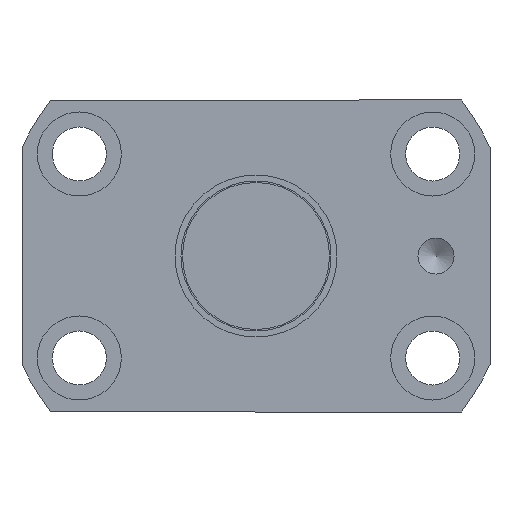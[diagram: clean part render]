
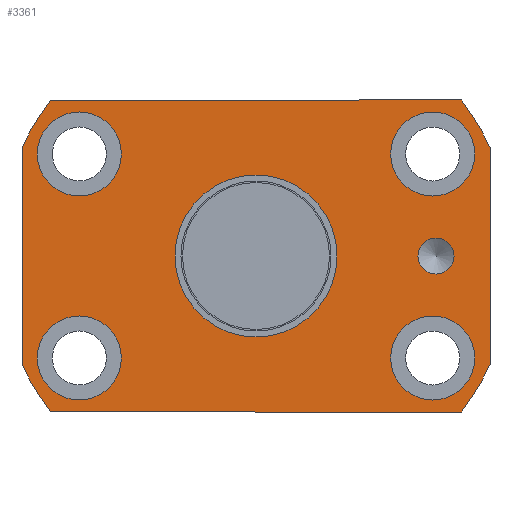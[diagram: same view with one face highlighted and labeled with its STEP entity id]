
A CAD part, left-side view. The second image highlights one B-rep face of the part: STEP entity #3361.
In plain terms, the highlighted planar face has unit normal (-1, 0, 0).
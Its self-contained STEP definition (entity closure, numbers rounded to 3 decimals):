
#375=CARTESIAN_POINT('',(457.265,-27.,0.));
#376=VERTEX_POINT('',#375);
#377=CARTESIAN_POINT('',(457.265,-30.0,0.));
#378=DIRECTION('',(1.0,0.0,0.0));
#379=DIRECTION('',(0.0,1.0,0.0));
#380=AXIS2_PLACEMENT_3D('',#377,#378,#379);
#381=CIRCLE('',#380,3.);
#382=EDGE_CURVE('',#376,#376,#381,.T.);
#516=CARTESIAN_POINT('',(457.265,36.445,-17.));
#517=VERTEX_POINT('',#516);
#518=CARTESIAN_POINT('',(457.265,29.445,-17.));
#519=DIRECTION('',(1.0,0.0,0.0));
#520=DIRECTION('',(0.0,1.0,0.0));
#521=AXIS2_PLACEMENT_3D('',#518,#519,#520);
#522=CIRCLE('',#521,7.);
#523=EDGE_CURVE('',#517,#517,#522,.T.);
#584=CARTESIAN_POINT('',(457.265,-22.445,17.));
#585=VERTEX_POINT('',#584);
#586=CARTESIAN_POINT('',(457.265,-29.445,17.));
#587=DIRECTION('',(1.0,0.0,0.0));
#588=DIRECTION('',(0.0,1.0,0.0));
#589=AXIS2_PLACEMENT_3D('',#586,#587,#588);
#590=CIRCLE('',#589,7.);
#591=EDGE_CURVE('',#585,#585,#590,.T.);
#652=CARTESIAN_POINT('',(457.265,36.445,17.));
#653=VERTEX_POINT('',#652);
#654=CARTESIAN_POINT('',(457.265,29.445,17.));
#655=DIRECTION('',(1.0,0.0,0.0));
#656=DIRECTION('',(0.0,1.0,0.0));
#657=AXIS2_PLACEMENT_3D('',#654,#655,#656);
#658=CIRCLE('',#657,7.);
#659=EDGE_CURVE('',#653,#653,#658,.T.);
#720=CARTESIAN_POINT('',(457.265,-22.445,-17.));
#721=VERTEX_POINT('',#720);
#722=CARTESIAN_POINT('',(457.265,-29.445,-17.));
#723=DIRECTION('',(1.0,0.0,0.0));
#724=DIRECTION('',(0.0,1.0,0.0));
#725=AXIS2_PLACEMENT_3D('',#722,#723,#724);
#726=CIRCLE('',#725,7.);
#727=EDGE_CURVE('',#721,#721,#726,.T.);
#3060=CARTESIAN_POINT('',(457.265,-34.249,26.));
#3061=VERTEX_POINT('',#3060);
#3068=CARTESIAN_POINT('',(457.265,-39.0,18.111));
#3069=VERTEX_POINT('',#3068);
#3070=CARTESIAN_POINT('',(457.265,0.,0.0));
#3071=DIRECTION('',(1.0,0.0,0.0));
#3072=DIRECTION('',(0.0,1.0,0.0));
#3073=AXIS2_PLACEMENT_3D('',#3070,#3071,#3072);
#3074=CIRCLE('',#3073,43.0);
#3075=EDGE_CURVE('',#3061,#3069,#3074,.T.);
#3092=CARTESIAN_POINT('',(457.265,34.249,26.0));
#3093=VERTEX_POINT('',#3092);
#3100=CARTESIAN_POINT('',(457.265,34.249,26.0));
#3101=DIRECTION('',(0.0,-1.0,0.0));
#3102=VECTOR('',#3101,68.498);
#3103=LINE('',#3100,#3102);
#3104=EDGE_CURVE('',#3093,#3061,#3103,.T.);
#3116=CARTESIAN_POINT('',(457.265,39.0,18.111));
#3117=VERTEX_POINT('',#3116);
#3124=CARTESIAN_POINT('',(457.265,0.,0.0));
#3125=DIRECTION('',(1.0,0.0,0.0));
#3126=DIRECTION('',(0.0,1.0,0.0));
#3127=AXIS2_PLACEMENT_3D('',#3124,#3125,#3126);
#3128=CIRCLE('',#3127,43.0);
#3129=EDGE_CURVE('',#3117,#3093,#3128,.T.);
#3141=CARTESIAN_POINT('',(457.265,39.,-18.111));
#3142=VERTEX_POINT('',#3141);
#3149=CARTESIAN_POINT('',(457.265,39.,-18.111));
#3150=DIRECTION('',(0.0,0.0,1.0));
#3151=VECTOR('',#3150,36.222);
#3152=LINE('',#3149,#3151);
#3153=EDGE_CURVE('',#3142,#3117,#3152,.T.);
#3165=CARTESIAN_POINT('',(457.265,-34.249,-26.));
#3166=VERTEX_POINT('',#3165);
#3173=CARTESIAN_POINT('',(457.265,34.249,-26.0));
#3174=VERTEX_POINT('',#3173);
#3175=CARTESIAN_POINT('',(457.265,-34.249,-26.));
#3176=DIRECTION('',(0.0,1.0,0.0));
#3177=VECTOR('',#3176,68.498);
#3178=LINE('',#3175,#3177);
#3179=EDGE_CURVE('',#3166,#3174,#3178,.T.);
#3197=CARTESIAN_POINT('',(457.265,0.,0.0));
#3198=DIRECTION('',(1.0,0.0,0.0));
#3199=DIRECTION('',(0.0,1.0,0.0));
#3200=AXIS2_PLACEMENT_3D('',#3197,#3198,#3199);
#3201=CIRCLE('',#3200,43.0);
#3202=EDGE_CURVE('',#3174,#3142,#3201,.T.);
#3214=CARTESIAN_POINT('',(457.265,-39.0,-18.111));
#3215=VERTEX_POINT('',#3214);
#3222=CARTESIAN_POINT('',(457.265,0.,0.0));
#3223=DIRECTION('',(1.0,0.0,0.0));
#3224=DIRECTION('',(0.0,1.0,0.0));
#3225=AXIS2_PLACEMENT_3D('',#3222,#3223,#3224);
#3226=CIRCLE('',#3225,43.0);
#3227=EDGE_CURVE('',#3215,#3166,#3226,.T.);
#3240=CARTESIAN_POINT('',(457.265,-39.0,18.111));
#3241=DIRECTION('',(0.0,0.0,-1.0));
#3242=VECTOR('',#3241,36.222);
#3243=LINE('',#3240,#3242);
#3244=EDGE_CURVE('',#3069,#3215,#3243,.T.);
#3255=CARTESIAN_POINT('',(457.265,13.5,0.0));
#3256=VERTEX_POINT('',#3255);
#3257=CARTESIAN_POINT('',(457.265,0.,0.0));
#3258=DIRECTION('',(1.0,0.0,0.0));
#3259=DIRECTION('',(0.0,1.0,0.0));
#3260=AXIS2_PLACEMENT_3D('',#3257,#3258,#3259);
#3261=CIRCLE('',#3260,13.5);
#3262=EDGE_CURVE('',#3256,#3256,#3261,.T.);
#3328=CARTESIAN_POINT('',(457.265,19.75,0.0));
#3329=DIRECTION('',(-1.0,0.0,0.0));
#3330=DIRECTION('',(0.0,0.0,1.0));
#3331=AXIS2_PLACEMENT_3D('',#3328,#3329,#3330);
#3332=PLANE('',#3331);
#3333=ORIENTED_EDGE('',*,*,#3179,.F.);
#3334=ORIENTED_EDGE('',*,*,#3227,.F.);
#3335=ORIENTED_EDGE('',*,*,#3244,.F.);
#3336=ORIENTED_EDGE('',*,*,#3075,.F.);
#3337=ORIENTED_EDGE('',*,*,#3104,.F.);
#3338=ORIENTED_EDGE('',*,*,#3129,.F.);
#3339=ORIENTED_EDGE('',*,*,#3153,.F.);
#3340=ORIENTED_EDGE('',*,*,#3202,.F.);
#3341=EDGE_LOOP('',(#3333,#3334,#3335,#3336,#3337,#3338,#3339,#3340));
#3342=FACE_OUTER_BOUND('',#3341,.T.);
#3343=ORIENTED_EDGE('',*,*,#382,.T.);
#3344=EDGE_LOOP('',(#3343));
#3345=FACE_BOUND('',#3344,.T.);
#3346=ORIENTED_EDGE('',*,*,#523,.T.);
#3347=EDGE_LOOP('',(#3346));
#3348=FACE_BOUND('',#3347,.T.);
#3349=ORIENTED_EDGE('',*,*,#591,.T.);
#3350=EDGE_LOOP('',(#3349));
#3351=FACE_BOUND('',#3350,.T.);
#3352=ORIENTED_EDGE('',*,*,#659,.T.);
#3353=EDGE_LOOP('',(#3352));
#3354=FACE_BOUND('',#3353,.T.);
#3355=ORIENTED_EDGE('',*,*,#727,.T.);
#3356=EDGE_LOOP('',(#3355));
#3357=FACE_BOUND('',#3356,.T.);
#3358=ORIENTED_EDGE('',*,*,#3262,.T.);
#3359=EDGE_LOOP('',(#3358));
#3360=FACE_BOUND('',#3359,.T.);
#3361=ADVANCED_FACE('',(#3342,#3345,#3348,#3351,#3354,#3357,#3360),#3332,.T.);
